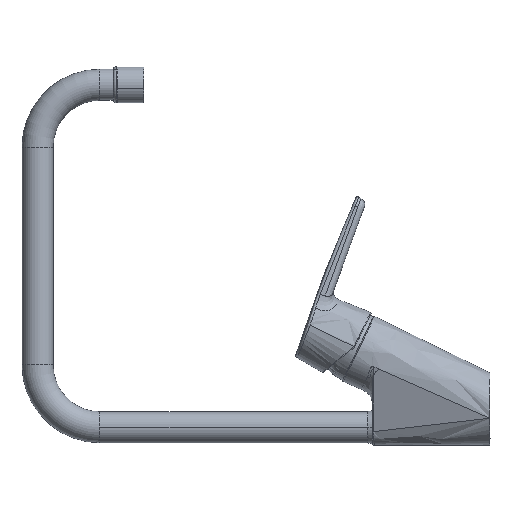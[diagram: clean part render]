
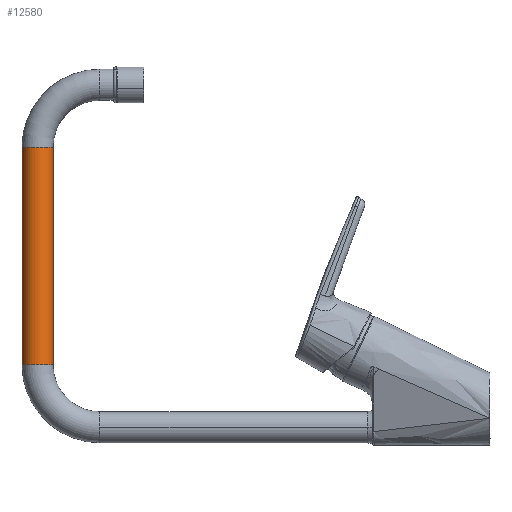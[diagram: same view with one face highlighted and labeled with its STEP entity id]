
A CAD part, left-side view. The second image highlights one B-rep face of the part: STEP entity #12580.
In plain terms, the highlighted cylindrical face has radius 10 mm (diameter 20 mm), a partial arc.
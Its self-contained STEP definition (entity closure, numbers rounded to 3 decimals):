
#160 = VECTOR ( 'NONE', #1808, 1000. ) ;
#523 = DIRECTION ( 'NONE',  ( 0., 0., -1. ) ) ;
#1053 = CARTESIAN_POINT ( 'NONE',  ( 0., 280.7, 168.25 ) ) ;
#1274 = DIRECTION ( 'NONE',  ( 0., 1., 0. ) ) ;
#1345 = EDGE_CURVE ( 'NONE', #7122, #12885, #14953, .T. ) ;
#1521 = CARTESIAN_POINT ( 'NONE',  ( 0., 290.7, 168.25 ) ) ;
#1808 = DIRECTION ( 'NONE',  ( 0., 0., -1. ) ) ;
#2103 = EDGE_CURVE ( 'NONE', #18888, #17859, #2219, .T. ) ;
#2160 = CARTESIAN_POINT ( 'NONE',  ( 0., 300.7, 168.25 ) ) ;
#2219 = CIRCLE ( 'NONE', #16676, 10. ) ;
#3170 = EDGE_CURVE ( 'NONE', #18888, #7122, #4069, .T. ) ;
#3445 = ORIENTED_EDGE ( 'NONE', *, *, #13486, .T. ) ;
#3712 = VECTOR ( 'NONE', #14040, 1000. ) ;
#4069 = LINE ( 'NONE', #1053, #160 ) ;
#4164 = FACE_OUTER_BOUND ( 'NONE', #12171, .T. ) ;
#4185 = CYLINDRICAL_SURFACE ( 'NONE', #16450, 10. ) ;
#5081 = CARTESIAN_POINT ( 'NONE',  ( 0., 290.7, 168.25 ) ) ;
#7122 = VERTEX_POINT ( 'NONE', #15277 ) ;
#8095 = CARTESIAN_POINT ( 'NONE',  ( 0., 300.7, 168.25 ) ) ;
#8981 = ORIENTED_EDGE ( 'NONE', *, *, #3170, .F. ) ;
#9738 = CARTESIAN_POINT ( 'NONE',  ( 0., 300.7, 28.25 ) ) ;
#11987 = CARTESIAN_POINT ( 'NONE',  ( 0., 280.7, 168.25 ) ) ;
#12171 = EDGE_LOOP ( 'NONE', ( #8981, #15628, #3445, #18925 ) ) ;
#12580 = ADVANCED_FACE ( 'NONE', ( #4164 ), #4185, .T. ) ;
#12885 = VERTEX_POINT ( 'NONE', #9738 ) ;
#13030 = CARTESIAN_POINT ( 'NONE',  ( 0., 290.7, 28.25 ) ) ;
#13206 = DIRECTION ( 'NONE',  ( 0., 1., 0. ) ) ;
#13486 = EDGE_CURVE ( 'NONE', #17859, #12885, #16457, .T. ) ;
#14040 = DIRECTION ( 'NONE',  ( 0., 0., -1. ) ) ;
#14162 = AXIS2_PLACEMENT_3D ( 'NONE', #13030, #17429, #1274 ) ;
#14953 = CIRCLE ( 'NONE', #14162, 10. ) ;
#15277 = CARTESIAN_POINT ( 'NONE',  ( 0., 280.7, 28.25 ) ) ;
#15431 = DIRECTION ( 'NONE',  ( 0., 1., 0. ) ) ;
#15628 = ORIENTED_EDGE ( 'NONE', *, *, #2103, .T. ) ;
#16450 = AXIS2_PLACEMENT_3D ( 'NONE', #5081, #523, #15431 ) ;
#16457 = LINE ( 'NONE', #2160, #3712 ) ;
#16676 = AXIS2_PLACEMENT_3D ( 'NONE', #1521, #17549, #13206 ) ;
#17429 = DIRECTION ( 'NONE',  ( 0., 0., -1. ) ) ;
#17549 = DIRECTION ( 'NONE',  ( 0., 0., -1. ) ) ;
#17859 = VERTEX_POINT ( 'NONE', #8095 ) ;
#18888 = VERTEX_POINT ( 'NONE', #11987 ) ;
#18925 = ORIENTED_EDGE ( 'NONE', *, *, #1345, .F. ) ;
